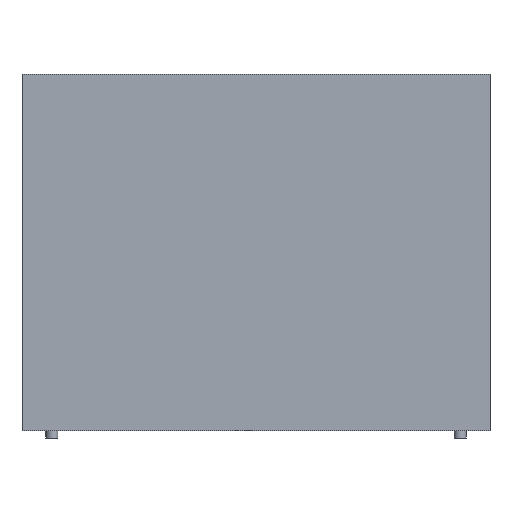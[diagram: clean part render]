
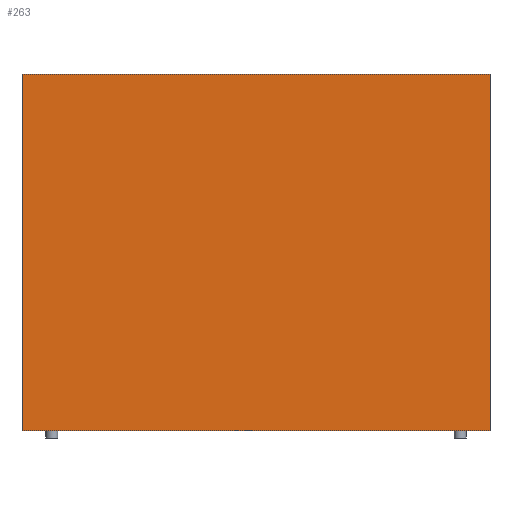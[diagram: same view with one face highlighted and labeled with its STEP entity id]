
A CAD part, front view. The second image highlights one B-rep face of the part: STEP entity #263.
In plain terms, the highlighted planar face has unit normal (0, -1, 0).
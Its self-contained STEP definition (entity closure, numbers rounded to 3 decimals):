
#47 = EDGE_CURVE('',#48,#50,#52,.T.);
#48 = VERTEX_POINT('',#49);
#49 = CARTESIAN_POINT('',(-2.,-7.,0.5));
#50 = VERTEX_POINT('',#51);
#51 = CARTESIAN_POINT('',(-2.,-7.,24.5));
#52 = SURFACE_CURVE('',#53,(#57,#69),.PCURVE_S1.);
#53 = LINE('',#54,#55);
#54 = CARTESIAN_POINT('',(-2.,-7.,0.5));
#55 = VECTOR('',#56,1.);
#56 = DIRECTION('',(0.,0.,1.));
#57 = PCURVE('',#58,#63);
#58 = PLANE('',#59);
#59 = AXIS2_PLACEMENT_3D('',#60,#61,#62);
#60 = CARTESIAN_POINT('',(-2.,-7.,0.5));
#61 = DIRECTION('',(1.,0.,-0.));
#62 = DIRECTION('',(0.,0.,1.));
#63 = DEFINITIONAL_REPRESENTATION('',(#64),#68);
#64 = LINE('',#65,#66);
#65 = CARTESIAN_POINT('',(0.,0.));
#66 = VECTOR('',#67,1.);
#67 = DIRECTION('',(1.,0.));
#68 = ( GEOMETRIC_REPRESENTATION_CONTEXT(2) 
PARAMETRIC_REPRESENTATION_CONTEXT() REPRESENTATION_CONTEXT('2D SPACE',''
  ) );
#69 = PCURVE('',#70,#75);
#70 = PLANE('',#71);
#71 = AXIS2_PLACEMENT_3D('',#72,#73,#74);
#72 = CARTESIAN_POINT('',(-2.,-7.,0.5));
#73 = DIRECTION('',(-0.,1.,0.));
#74 = DIRECTION('',(0.,0.,1.));
#75 = DEFINITIONAL_REPRESENTATION('',(#76),#80);
#76 = LINE('',#77,#78);
#77 = CARTESIAN_POINT('',(0.,0.));
#78 = VECTOR('',#79,1.);
#79 = DIRECTION('',(1.,0.));
#80 = ( GEOMETRIC_REPRESENTATION_CONTEXT(2) 
PARAMETRIC_REPRESENTATION_CONTEXT() REPRESENTATION_CONTEXT('2D SPACE',''
  ) );
#98 = PLANE('',#99);
#99 = AXIS2_PLACEMENT_3D('',#100,#101,#102);
#100 = CARTESIAN_POINT('',(-2.,-7.,0.5));
#101 = DIRECTION('',(0.,0.,1.));
#102 = DIRECTION('',(1.,0.,-0.));
#152 = PLANE('',#153);
#153 = AXIS2_PLACEMENT_3D('',#154,#155,#156);
#154 = CARTESIAN_POINT('',(-2.,-7.,24.5));
#155 = DIRECTION('',(0.,0.,1.));
#156 = DIRECTION('',(1.,0.,-0.));
#167 = EDGE_CURVE('',#168,#170,#172,.T.);
#168 = VERTEX_POINT('',#169);
#169 = CARTESIAN_POINT('',(29.5,-7.,0.5));
#170 = VERTEX_POINT('',#171);
#171 = CARTESIAN_POINT('',(29.5,-7.,24.5));
#172 = SURFACE_CURVE('',#173,(#177,#189),.PCURVE_S1.);
#173 = LINE('',#174,#175);
#174 = CARTESIAN_POINT('',(29.5,-7.,0.5));
#175 = VECTOR('',#176,1.);
#176 = DIRECTION('',(0.,0.,1.));
#177 = PCURVE('',#178,#183);
#178 = PLANE('',#179);
#179 = AXIS2_PLACEMENT_3D('',#180,#181,#182);
#180 = CARTESIAN_POINT('',(29.5,-7.,0.5));
#181 = DIRECTION('',(1.,0.,-0.));
#182 = DIRECTION('',(0.,0.,1.));
#183 = DEFINITIONAL_REPRESENTATION('',(#184),#188);
#184 = LINE('',#185,#186);
#185 = CARTESIAN_POINT('',(0.,0.));
#186 = VECTOR('',#187,1.);
#187 = DIRECTION('',(1.,0.));
#188 = ( GEOMETRIC_REPRESENTATION_CONTEXT(2) 
PARAMETRIC_REPRESENTATION_CONTEXT() REPRESENTATION_CONTEXT('2D SPACE',''
  ) );
#189 = PCURVE('',#70,#190);
#190 = DEFINITIONAL_REPRESENTATION('',(#191),#195);
#191 = LINE('',#192,#193);
#192 = CARTESIAN_POINT('',(0.,31.5));
#193 = VECTOR('',#194,1.);
#194 = DIRECTION('',(1.,0.));
#195 = ( GEOMETRIC_REPRESENTATION_CONTEXT(2) 
PARAMETRIC_REPRESENTATION_CONTEXT() REPRESENTATION_CONTEXT('2D SPACE',''
  ) );
#263 = ADVANCED_FACE('',(#264),#70,.F.);
#264 = FACE_BOUND('',#265,.F.);
#265 = EDGE_LOOP('',(#266,#287,#288,#309));
#266 = ORIENTED_EDGE('',*,*,#267,.F.);
#267 = EDGE_CURVE('',#48,#168,#268,.T.);
#268 = SURFACE_CURVE('',#269,(#273,#280),.PCURVE_S1.);
#269 = LINE('',#270,#271);
#270 = CARTESIAN_POINT('',(-2.,-7.,0.5));
#271 = VECTOR('',#272,1.);
#272 = DIRECTION('',(1.,0.,-0.));
#273 = PCURVE('',#70,#274);
#274 = DEFINITIONAL_REPRESENTATION('',(#275),#279);
#275 = LINE('',#276,#277);
#276 = CARTESIAN_POINT('',(0.,0.));
#277 = VECTOR('',#278,1.);
#278 = DIRECTION('',(0.,1.));
#279 = ( GEOMETRIC_REPRESENTATION_CONTEXT(2) 
PARAMETRIC_REPRESENTATION_CONTEXT() REPRESENTATION_CONTEXT('2D SPACE',''
  ) );
#280 = PCURVE('',#98,#281);
#281 = DEFINITIONAL_REPRESENTATION('',(#282),#286);
#282 = LINE('',#283,#284);
#283 = CARTESIAN_POINT('',(0.,0.));
#284 = VECTOR('',#285,1.);
#285 = DIRECTION('',(1.,0.));
#286 = ( GEOMETRIC_REPRESENTATION_CONTEXT(2) 
PARAMETRIC_REPRESENTATION_CONTEXT() REPRESENTATION_CONTEXT('2D SPACE',''
  ) );
#287 = ORIENTED_EDGE('',*,*,#47,.T.);
#288 = ORIENTED_EDGE('',*,*,#289,.T.);
#289 = EDGE_CURVE('',#50,#170,#290,.T.);
#290 = SURFACE_CURVE('',#291,(#295,#302),.PCURVE_S1.);
#291 = LINE('',#292,#293);
#292 = CARTESIAN_POINT('',(-2.,-7.,24.5));
#293 = VECTOR('',#294,1.);
#294 = DIRECTION('',(1.,0.,-0.));
#295 = PCURVE('',#70,#296);
#296 = DEFINITIONAL_REPRESENTATION('',(#297),#301);
#297 = LINE('',#298,#299);
#298 = CARTESIAN_POINT('',(24.,0.));
#299 = VECTOR('',#300,1.);
#300 = DIRECTION('',(0.,1.));
#301 = ( GEOMETRIC_REPRESENTATION_CONTEXT(2) 
PARAMETRIC_REPRESENTATION_CONTEXT() REPRESENTATION_CONTEXT('2D SPACE',''
  ) );
#302 = PCURVE('',#152,#303);
#303 = DEFINITIONAL_REPRESENTATION('',(#304),#308);
#304 = LINE('',#305,#306);
#305 = CARTESIAN_POINT('',(0.,0.));
#306 = VECTOR('',#307,1.);
#307 = DIRECTION('',(1.,0.));
#308 = ( GEOMETRIC_REPRESENTATION_CONTEXT(2) 
PARAMETRIC_REPRESENTATION_CONTEXT() REPRESENTATION_CONTEXT('2D SPACE',''
  ) );
#309 = ORIENTED_EDGE('',*,*,#167,.F.);
